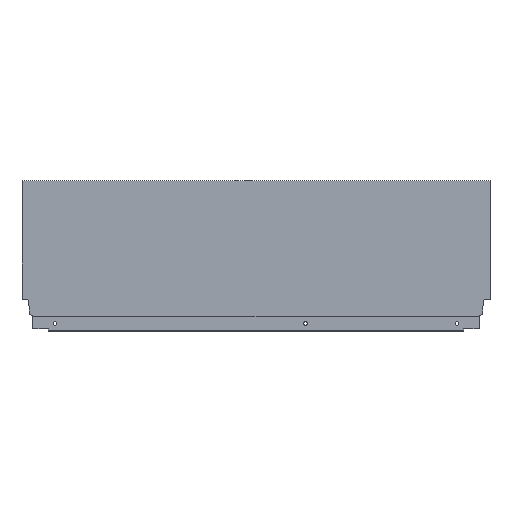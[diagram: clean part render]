
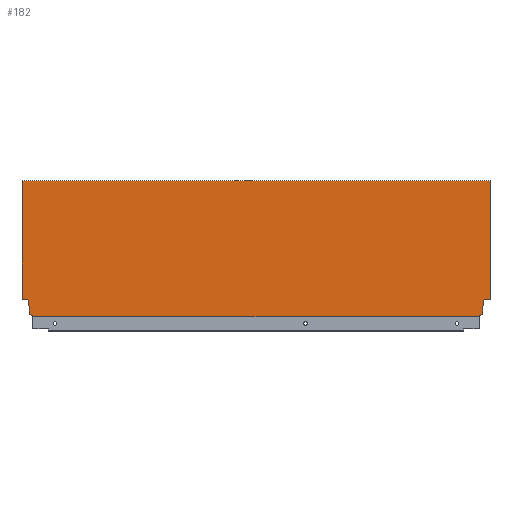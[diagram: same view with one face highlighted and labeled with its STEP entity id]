
A CAD part, top view. The second image highlights one B-rep face of the part: STEP entity #182.
In plain terms, the highlighted planar face has unit normal (0, 0, 1).
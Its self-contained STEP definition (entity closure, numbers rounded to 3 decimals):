
#2 = VECTOR ( 'NONE', #1018, 1000. ) ;
#3 = LINE ( 'NONE', #1208, #2 ) ;
#10 = EDGE_CURVE ( 'NONE', #1075, #1025, #3, .T. ) ;
#182 = ADVANCED_FACE ( 'NONE', ( #555 ), #999, .T. ) ;
#300 = CARTESIAN_POINT ( 'NONE',  ( -8.9, 2.64, 7.5 ) ) ;
#328 = CARTESIAN_POINT ( 'NONE',  ( -8.9, 10.765, 7.5 ) ) ;
#330 = CARTESIAN_POINT ( 'NONE',  ( -13.004, 1.146, 7.5 ) ) ;
#334 = CARTESIAN_POINT ( 'NONE',  ( -7.06, 21.2, 7.5 ) ) ;
#335 = CARTESIAN_POINT ( 'NONE',  ( 0., 21.2, 7.5 ) ) ;
#342 = CARTESIAN_POINT ( 'NONE',  ( -559.94, 21.2, 7.5 ) ) ;
#344 = CARTESIAN_POINT ( 'NONE',  ( 0., 164.7, 7.5 ) ) ;
#349 = CARTESIAN_POINT ( 'NONE',  ( -567., 164.7, 7.5 ) ) ;
#366 = CARTESIAN_POINT ( 'NONE',  ( -558.1, 2.64, 7.5 ) ) ;
#367 = CARTESIAN_POINT ( 'NONE',  ( -553.996, 1.146, 7.5 ) ) ;
#368 = CARTESIAN_POINT ( 'NONE',  ( -558.1, 10.765, 7.5 ) ) ;
#370 = CARTESIAN_POINT ( 'NONE',  ( -13.004, 0., 7.5 ) ) ;
#374 = CARTESIAN_POINT ( 'NONE',  ( -567., 21.2, 7.5 ) ) ;
#385 = CARTESIAN_POINT ( 'NONE',  ( -553.996, 0., 7.5 ) ) ;
#539 = EDGE_CURVE ( 'NONE', #1043, #1025, #647, .T. ) ;
#540 = EDGE_CURVE ( 'NONE', #1028, #1077, #639, .T. ) ;
#542 = EDGE_CURVE ( 'NONE', #1021, #1022, #653, .T. ) ;
#543 = EDGE_CURVE ( 'NONE', #1043, #1021, #646, .T. ) ;
#544 = EDGE_CURVE ( 'NONE', #1077, #1035, #657, .T. ) ;
#545 = EDGE_CURVE ( 'NONE', #1049, #1035, #650, .T. ) ;
#546 = EDGE_CURVE ( 'NONE', #1022, #1028, #661, .T. ) ;
#547 = EDGE_CURVE ( 'NONE', #1087, #1192, #652, .T. ) ;
#555 = FACE_OUTER_BOUND ( 'NONE', #1236, .T. ) ;
#639 = LINE ( 'NONE', #1156, #649 ) ;
#646 = LINE ( 'NONE', #1148, #655 ) ;
#647 = LINE ( 'NONE', #1151, #648 ) ;
#648 = VECTOR ( 'NONE', #1152, 1000. ) ;
#649 = VECTOR ( 'NONE', #1154, 1000. ) ;
#650 = LINE ( 'NONE', #1146, #659 ) ;
#652 = LINE ( 'NONE', #1165, #663 ) ;
#653 = LINE ( 'NONE', #1150, #654 ) ;
#654 = VECTOR ( 'NONE', #1145, 1000. ) ;
#655 = VECTOR ( 'NONE', #1147, 1000. ) ;
#656 = LINE ( 'NONE', #1142, #665 ) ;
#657 = LINE ( 'NONE', #1144, #658 ) ;
#658 = VECTOR ( 'NONE', #1164, 1000. ) ;
#659 = VECTOR ( 'NONE', #1166, 1000. ) ;
#660 = LINE ( 'NONE', #1140, #667 ) ;
#661 = LINE ( 'NONE', #1167, #662 ) ;
#662 = VECTOR ( 'NONE', #1141, 1000. ) ;
#663 = VECTOR ( 'NONE', #1139, 1000. ) ;
#664 = LINE ( 'NONE', #1138, #669 ) ;
#665 = VECTOR ( 'NONE', #1137, 1000. ) ;
#666 = LINE ( 'NONE', #1218, #671 ) ;
#667 = VECTOR ( 'NONE', #1213, 1000. ) ;
#668 = LINE ( 'NONE', #1219, #673 ) ;
#669 = VECTOR ( 'NONE', #1214, 1000. ) ;
#671 = VECTOR ( 'NONE', #1206, 1000. ) ;
#673 = VECTOR ( 'NONE', #1205, 1000. ) ;
#715 = EDGE_CURVE ( 'NONE', #1071, #1087, #656, .T. ) ;
#716 = EDGE_CURVE ( 'NONE', #1192, #1075, #660, .T. ) ;
#717 = EDGE_CURVE ( 'NONE', #1070, #1071, #664, .T. ) ;
#718 = EDGE_CURVE ( 'NONE', #1067, #1070, #666, .T. ) ;
#719 = EDGE_CURVE ( 'NONE', #1049, #1067, #668, .T. ) ;
#820 = AXIS2_PLACEMENT_3D ( 'NONE', #996, #990, #989 ) ;
#989 = DIRECTION ( 'NONE',  ( 1., 0., 0. ) ) ;
#990 = DIRECTION ( 'NONE',  ( 0., 0., 1. ) ) ;
#996 = CARTESIAN_POINT ( 'NONE',  ( -567., 0., 7.5 ) ) ;
#999 = PLANE ( 'NONE',  #820 ) ;
#1018 = DIRECTION ( 'NONE',  ( 0., -1., 0. ) ) ;
#1021 = VERTEX_POINT ( 'NONE', #367 ) ;
#1022 = VERTEX_POINT ( 'NONE', #366 ) ;
#1025 = VERTEX_POINT ( 'NONE', #370 ) ;
#1028 = VERTEX_POINT ( 'NONE', #368 ) ;
#1035 = VERTEX_POINT ( 'NONE', #374 ) ;
#1043 = VERTEX_POINT ( 'NONE', #385 ) ;
#1049 = VERTEX_POINT ( 'NONE', #349 ) ;
#1067 = VERTEX_POINT ( 'NONE', #344 ) ;
#1070 = VERTEX_POINT ( 'NONE', #335 ) ;
#1071 = VERTEX_POINT ( 'NONE', #334 ) ;
#1075 = VERTEX_POINT ( 'NONE', #330 ) ;
#1077 = VERTEX_POINT ( 'NONE', #342 ) ;
#1087 = VERTEX_POINT ( 'NONE', #328 ) ;
#1137 = DIRECTION ( 'NONE',  ( -0.174, -0.985, 0. ) ) ;
#1138 = CARTESIAN_POINT ( 'NONE',  ( 0., 21.2, 7.5 ) ) ;
#1139 = DIRECTION ( 'NONE',  ( 0., -1., 0. ) ) ;
#1140 = CARTESIAN_POINT ( 'NONE',  ( -8.9, 2.64, 7.5 ) ) ;
#1141 = DIRECTION ( 'NONE',  ( 0., 1., 0. ) ) ;
#1142 = CARTESIAN_POINT ( 'NONE',  ( -7.06, 21.2, 7.5 ) ) ;
#1144 = CARTESIAN_POINT ( 'NONE',  ( -572., 21.2, 7.5 ) ) ;
#1145 = DIRECTION ( 'NONE',  ( -0.94, 0.342, 0. ) ) ;
#1146 = CARTESIAN_POINT ( 'NONE',  ( -567., 0., 7.5 ) ) ;
#1147 = DIRECTION ( 'NONE',  ( 0., 1., 0. ) ) ;
#1148 = CARTESIAN_POINT ( 'NONE',  ( -553.996, 1.146, 7.5 ) ) ;
#1150 = CARTESIAN_POINT ( 'NONE',  ( -558.1, 2.64, 7.5 ) ) ;
#1151 = CARTESIAN_POINT ( 'NONE',  ( -567., 0., 7.5 ) ) ;
#1152 = DIRECTION ( 'NONE',  ( 1., 0., 0. ) ) ;
#1154 = DIRECTION ( 'NONE',  ( -0.174, 0.985, 0. ) ) ;
#1156 = CARTESIAN_POINT ( 'NONE',  ( -559.94, 21.2, 7.5 ) ) ;
#1164 = DIRECTION ( 'NONE',  ( -1., 0., 0. ) ) ;
#1165 = CARTESIAN_POINT ( 'NONE',  ( -8.9, 10.765, 7.5 ) ) ;
#1166 = DIRECTION ( 'NONE',  ( 0., -1., 0. ) ) ;
#1167 = CARTESIAN_POINT ( 'NONE',  ( -558.1, 10.765, 7.5 ) ) ;
#1192 = VERTEX_POINT ( 'NONE', #300 ) ;
#1205 = DIRECTION ( 'NONE',  ( 1., 0., 0. ) ) ;
#1206 = DIRECTION ( 'NONE',  ( 0., -1., 0. ) ) ;
#1208 = CARTESIAN_POINT ( 'NONE',  ( -13.004, 1.146, 7.5 ) ) ;
#1213 = DIRECTION ( 'NONE',  ( -0.94, -0.342, 0. ) ) ;
#1214 = DIRECTION ( 'NONE',  ( -1., 0., 0. ) ) ;
#1218 = CARTESIAN_POINT ( 'NONE',  ( 0., 0., 7.5 ) ) ;
#1219 = CARTESIAN_POINT ( 'NONE',  ( -567., 164.7, 7.5 ) ) ;
#1236 = EDGE_LOOP ( 'NONE', ( #1461, #1460, #1459, #1258, #1259, #1260, #1261, #1262, #1263, #1264, #1265, #1266, #1267, #1268 ) ) ;
#1258 = ORIENTED_EDGE ( 'NONE', *, *, #546, .F. ) ;
#1259 = ORIENTED_EDGE ( 'NONE', *, *, #542, .F. ) ;
#1260 = ORIENTED_EDGE ( 'NONE', *, *, #543, .F. ) ;
#1261 = ORIENTED_EDGE ( 'NONE', *, *, #539, .T. ) ;
#1262 = ORIENTED_EDGE ( 'NONE', *, *, #10, .F. ) ;
#1263 = ORIENTED_EDGE ( 'NONE', *, *, #716, .F. ) ;
#1264 = ORIENTED_EDGE ( 'NONE', *, *, #547, .F. ) ;
#1265 = ORIENTED_EDGE ( 'NONE', *, *, #715, .F. ) ;
#1266 = ORIENTED_EDGE ( 'NONE', *, *, #717, .F. ) ;
#1267 = ORIENTED_EDGE ( 'NONE', *, *, #718, .F. ) ;
#1268 = ORIENTED_EDGE ( 'NONE', *, *, #719, .F. ) ;
#1459 = ORIENTED_EDGE ( 'NONE', *, *, #540, .F. ) ;
#1460 = ORIENTED_EDGE ( 'NONE', *, *, #544, .F. ) ;
#1461 = ORIENTED_EDGE ( 'NONE', *, *, #545, .T. ) ;
